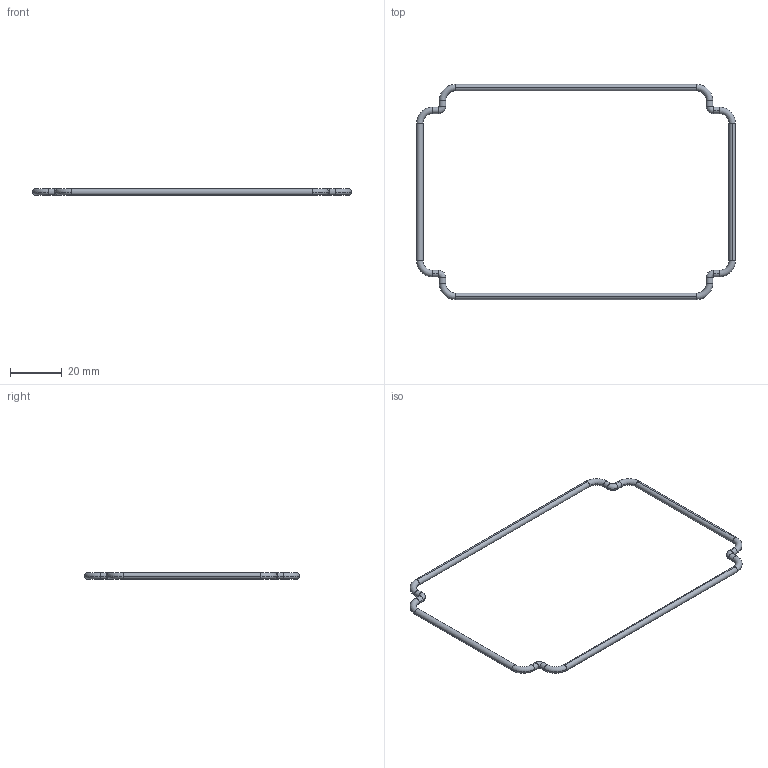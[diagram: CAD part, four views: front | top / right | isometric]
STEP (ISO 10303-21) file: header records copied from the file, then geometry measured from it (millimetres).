
FILE_DESCRIPTION (( 'STEP AP214' ), '1' );
FILE_NAME ('Junta 63C.STEP', '2017-01-23T03:22:14', ( 'aaa' ), ( '' ), 'SwSTEP 2.0', 'SolidWorks 2013', '' );
FILE_SCHEMA (( 'AUTOMOTIVE_DESIGN' ));
Length unit declared in the file: millimetre
Products named in the file (1): Junta 63C
Bounding box: 123 x 83 x 2.5 mm (x, y, z)
Volume: 1875.6 mm3; surface area: 3000.9 mm2
Topology: 1 solids, 1 shells, 48 faces, 120 edges, 72 vertices
Faces by surface type: torus 24, cylinder 24
Entity records: 1506 total; most frequent: DIRECTION 314, CARTESIAN_POINT 241, ORIENTED_EDGE 240, AXIS2_PLACEMENT_3D 145, EDGE_CURVE 120, CIRCLE 96, VERTEX_POINT 72, ADVANCED_FACE 48
